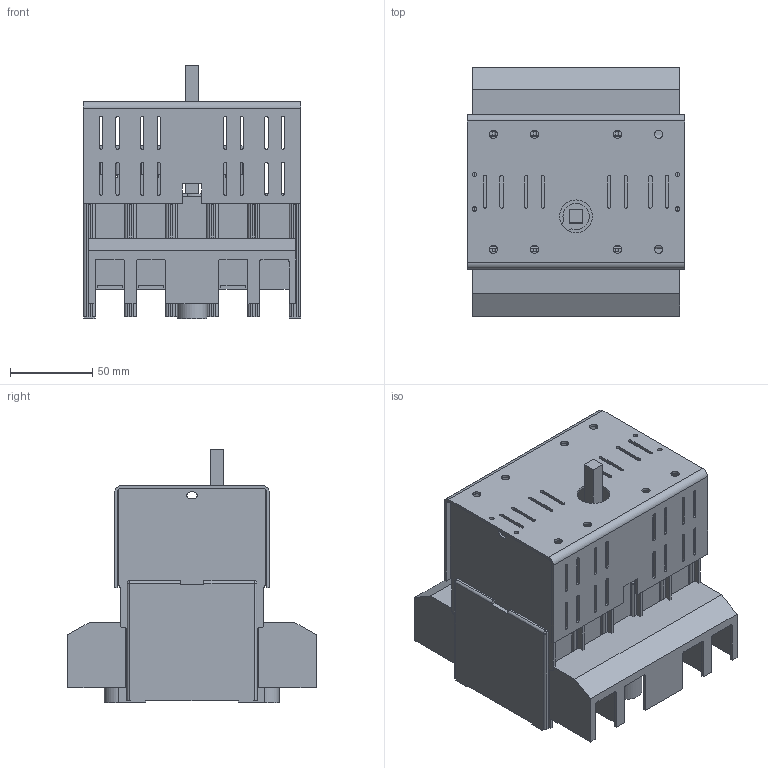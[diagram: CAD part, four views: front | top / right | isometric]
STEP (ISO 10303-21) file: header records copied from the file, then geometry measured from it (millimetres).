
FILE_DESCRIPTION(/* description */ (''),/* implementation_level */ '2;1');
FILE_NAME(/* name */ 'RAB 000 P3 z oslona zaciskow.stp',/* time_stamp */ '2021-08-19T09:44:16+02:00',/* author */ (''),/* organization */ (''),/* preprocessor_version */ 'ST-DEVELOPER v18.1',/* originating_system */ 'SIEMENS PLM Software NX 1965',/* authorisation */ '');
FILE_SCHEMA (('AUTOMOTIVE_DESIGN { 1 0 10303 214 3 1 1 1 }'));
Length unit declared in the file: millimetre
Products named in the file (1): RAB 000 P3 z oslona zaciskow_stp
Bounding box: 132.5 x 151.03 x 154 mm (x, y, z)
Volume: 774354.8 mm3; surface area: 257331 mm2
Topology: 1 solids, 1 shells, 1143 faces, 3323 edges, 2145 vertices
Faces by surface type: plane 763, cylinder 356, sphere 23, bspline 1
Full cylindrical faces by diameter (mm): 2.7 x4, 5 x8, 5.8 x2, 6.5 x6, 10 x2, 11.5 x2, 20 x1
Entity records: 37442 total; most frequent: CARTESIAN_POINT 6835, ORIENTED_EDGE 6520, DIRECTION 6164, EDGE_CURVE 3260, LINE 2480, VECTOR 2480, VERTEX_POINT 2131, AXIS2_PLACEMENT_3D 1842
